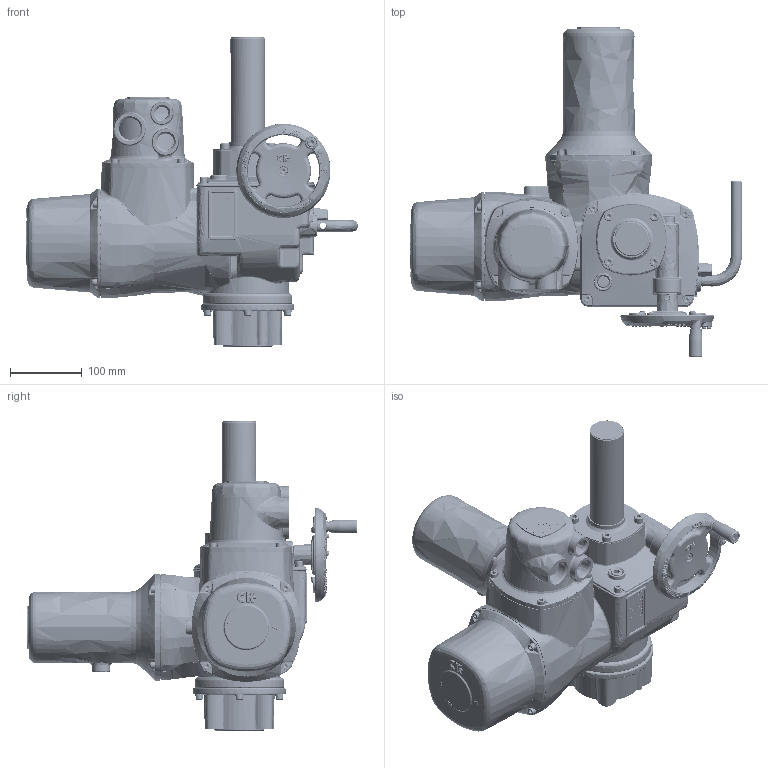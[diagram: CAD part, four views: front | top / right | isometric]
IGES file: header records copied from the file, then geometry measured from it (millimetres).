
Start section: C
Global section: file name: CK120 F10 THRUST BASE - AID.igs; native system: By Siemens PLM Incorporated; preprocessor: XPlus GENERIC/IGES 19.0.9; author: Author; organization: Title; date: 20170823.183905; units: millimetre
Bounding box: 464.35 x 462.65 x 432.33 mm (x, y, z)
Surface area: 569568.1 mm2 (no closed solid volume)
Topology: 0 solids, 0 shells, 5093 faces, 29501 edges, 29259 vertices
Faces by surface type: bspline 5093
